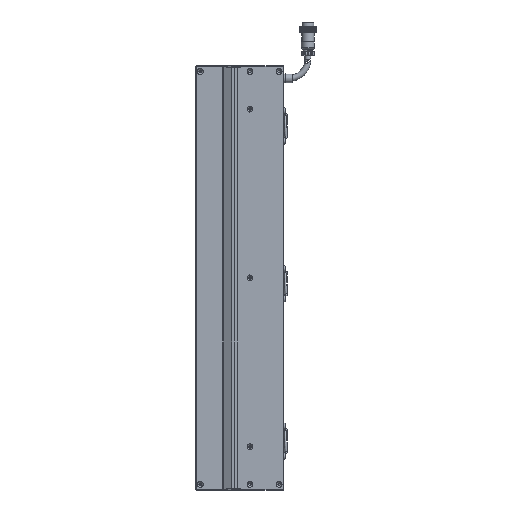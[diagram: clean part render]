
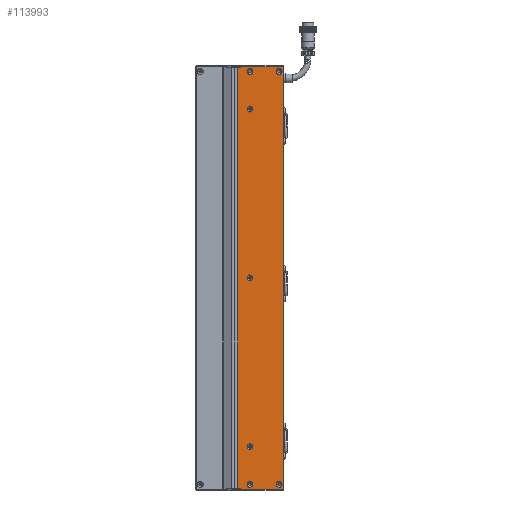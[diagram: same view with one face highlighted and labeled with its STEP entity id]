
A CAD part, left-side view. The second image highlights one B-rep face of the part: STEP entity #113993.
In plain terms, the highlighted planar face has unit normal (-1, 0, 0).
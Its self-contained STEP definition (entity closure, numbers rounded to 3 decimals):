
#1678 = DIRECTION ( 'NONE',  ( -1., 0., 0. ) ) ;
#1937 = DIRECTION ( 'NONE',  ( 0., -1., 0. ) ) ;
#2481 = CARTESIAN_POINT ( 'NONE',  ( -24.998, -26.5, 217. ) ) ;
#2918 = DIRECTION ( 'NONE',  ( 0., 0., -1. ) ) ;
#3551 = CIRCLE ( 'NONE', #79001, 3.15 ) ;
#4057 = ORIENTED_EDGE ( 'NONE', *, *, #41274, .T. ) ;
#4589 = CIRCLE ( 'NONE', #27451, 3.15 ) ;
#5843 = VERTEX_POINT ( 'NONE', #69079 ) ;
#6444 = CARTESIAN_POINT ( 'NONE',  ( -24.998, -26.5, 225.5 ) ) ;
#7222 = PLANE ( 'NONE',  #11568 ) ;
#7411 = VERTEX_POINT ( 'NONE', #6444 ) ;
#9738 = ORIENTED_EDGE ( 'NONE', *, *, #94334, .F. ) ;
#11313 = CARTESIAN_POINT ( 'NONE',  ( -24.998, -36.5, 183.15 ) ) ;
#11568 = AXIS2_PLACEMENT_3D ( 'NONE', #78213, #28026, #99085 ) ;
#12049 = LINE ( 'NONE', #41435, #116949 ) ;
#12840 = CARTESIAN_POINT ( 'NONE',  ( -24.998, -36.5, 0. ) ) ;
#14191 = EDGE_CURVE ( 'NONE', #7411, #53109, #38770, .T. ) ;
#17472 = LINE ( 'NONE', #82135, #71469 ) ;
#18000 = CIRCLE ( 'NONE', #66635, 3.15 ) ;
#19995 = EDGE_LOOP ( 'NONE', ( #27729, #4057, #95891, #44882, #77079, #102467, #67995, #102828 ) ) ;
#20306 = EDGE_CURVE ( 'NONE', #26002, #53109, #17472, .T. ) ;
#22964 = DIRECTION ( 'NONE',  ( -1., 0., 0. ) ) ;
#23528 = EDGE_LOOP ( 'NONE', ( #96556 ) ) ;
#24158 = CARTESIAN_POINT ( 'NONE',  ( -24.998, -23.25, -224. ) ) ;
#25149 = AXIS2_PLACEMENT_3D ( 'NONE', #53984, #22964, #94025 ) ;
#25814 = FACE_OUTER_BOUND ( 'NONE', #19995, .T. ) ;
#26002 = VERTEX_POINT ( 'NONE', #92163 ) ;
#27259 = VERTEX_POINT ( 'NONE', #96201 ) ;
#27451 = AXIS2_PLACEMENT_3D ( 'NONE', #59750, #89950, #90382 ) ;
#27729 = ORIENTED_EDGE ( 'NONE', *, *, #39736, .T. ) ;
#28026 = DIRECTION ( 'NONE',  ( 1., 0., 0. ) ) ;
#28982 = FACE_BOUND ( 'NONE', #99981, .T. ) ;
#32730 = VECTOR ( 'NONE', #86081, 1000. ) ;
#32748 = DIRECTION ( 'NONE',  ( 0., -1., 0. ) ) ;
#38770 = LINE ( 'NONE', #2481, #46705 ) ;
#39736 = EDGE_CURVE ( 'NONE', #54348, #5843, #99677, .T. ) ;
#41228 = CIRCLE ( 'NONE', #49196, 3.15 ) ;
#41274 = EDGE_CURVE ( 'NONE', #5843, #120175, #131452, .T. ) ;
#41435 = CARTESIAN_POINT ( 'NONE',  ( -24.998, -72.5, -225.5 ) ) ;
#41793 = VERTEX_POINT ( 'NONE', #11313 ) ;
#41904 = CIRCLE ( 'NONE', #123654, 3.15 ) ;
#42417 = VECTOR ( 'NONE', #1937, 1000. ) ;
#43332 = EDGE_CURVE ( 'NONE', #54348, #26002, #89768, .T. ) ;
#44465 = CARTESIAN_POINT ( 'NONE',  ( -24.998, -36.5, -176.85 ) ) ;
#44866 = FACE_BOUND ( 'NONE', #92981, .T. ) ;
#44882 = ORIENTED_EDGE ( 'NONE', *, *, #75938, .T. ) ;
#45564 = DIRECTION ( 'NONE',  ( -1., 0., 0. ) ) ;
#45609 = VECTOR ( 'NONE', #106221, 1000. ) ;
#45754 = CARTESIAN_POINT ( 'NONE',  ( -24.998, -72.5, 225.5 ) ) ;
#46438 = FACE_BOUND ( 'NONE', #126923, .T. ) ;
#46705 = VECTOR ( 'NONE', #2918, 1000. ) ;
#49196 = AXIS2_PLACEMENT_3D ( 'NONE', #50446, #131907, #82001 ) ;
#49756 = FACE_BOUND ( 'NONE', #113750, .T. ) ;
#50446 = CARTESIAN_POINT ( 'NONE',  ( -24.998, -36.5, -180. ) ) ;
#52915 = VERTEX_POINT ( 'NONE', #60609 ) ;
#53109 = VERTEX_POINT ( 'NONE', #121900 ) ;
#53984 = CARTESIAN_POINT ( 'NONE',  ( -24.998, -67.5, 220. ) ) ;
#54348 = VERTEX_POINT ( 'NONE', #118490 ) ;
#55081 = AXIS2_PLACEMENT_3D ( 'NONE', #12840, #103004, #83858 ) ;
#56499 = EDGE_CURVE ( 'NONE', #72041, #72041, #18000, .T. ) ;
#56751 = LINE ( 'NONE', #56883, #45609 ) ;
#56883 = CARTESIAN_POINT ( 'NONE',  ( -24.998, -72., 224. ) ) ;
#58202 = ORIENTED_EDGE ( 'NONE', *, *, #66349, .F. ) ;
#59326 = VERTEX_POINT ( 'NONE', #112187 ) ;
#59750 = CARTESIAN_POINT ( 'NONE',  ( -24.998, -36.5, 180. ) ) ;
#60609 = CARTESIAN_POINT ( 'NONE',  ( -24.998, -67.5, -216.85 ) ) ;
#62833 = ORIENTED_EDGE ( 'NONE', *, *, #119256, .F. ) ;
#62979 = CARTESIAN_POINT ( 'NONE',  ( -24.998, -36.5, -220. ) ) ;
#63303 = EDGE_CURVE ( 'NONE', #111360, #7411, #69340, .T. ) ;
#63808 = EDGE_CURVE ( 'NONE', #120175, #27259, #12049, .T. ) ;
#65314 = DIRECTION ( 'NONE',  ( 0., 1., 0. ) ) ;
#66349 = EDGE_CURVE ( 'NONE', #52915, #52915, #41904, .T. ) ;
#66635 = AXIS2_PLACEMENT_3D ( 'NONE', #62979, #1678, #125664 ) ;
#67995 = ORIENTED_EDGE ( 'NONE', *, *, #20306, .F. ) ;
#68278 = DIRECTION ( 'NONE',  ( 0., 0., 1. ) ) ;
#69079 = CARTESIAN_POINT ( 'NONE',  ( -24.998, -26.5, -224. ) ) ;
#69340 = LINE ( 'NONE', #45754, #83626 ) ;
#71469 = VECTOR ( 'NONE', #32748, 1000. ) ;
#71689 = CARTESIAN_POINT ( 'NONE',  ( -24.998, -36.5, 3.15 ) ) ;
#72041 = VERTEX_POINT ( 'NONE', #109978 ) ;
#75938 = EDGE_CURVE ( 'NONE', #27259, #111360, #56751, .T. ) ;
#77079 = ORIENTED_EDGE ( 'NONE', *, *, #63303, .T. ) ;
#78213 = CARTESIAN_POINT ( 'NONE',  ( -24.998, -72.5, 224. ) ) ;
#79001 = AXIS2_PLACEMENT_3D ( 'NONE', #82323, #122446, #122006 ) ;
#82001 = DIRECTION ( 'NONE',  ( 0., 0., 1. ) ) ;
#82135 = CARTESIAN_POINT ( 'NONE',  ( -24.998, -72.5, 224. ) ) ;
#82323 = CARTESIAN_POINT ( 'NONE',  ( -24.998, -36.5, 220. ) ) ;
#83626 = VECTOR ( 'NONE', #65314, 1000. ) ;
#83858 = DIRECTION ( 'NONE',  ( 0., 0., 1. ) ) ;
#86081 = DIRECTION ( 'NONE',  ( 0., 0., -1. ) ) ;
#89532 = EDGE_CURVE ( 'NONE', #59326, #59326, #3551, .T. ) ;
#89768 = LINE ( 'NONE', #24158, #91432 ) ;
#89950 = DIRECTION ( 'NONE',  ( -1., 0., 0. ) ) ;
#90382 = DIRECTION ( 'NONE',  ( 0., 0., 1. ) ) ;
#91432 = VECTOR ( 'NONE', #96123, 1000. ) ;
#92163 = CARTESIAN_POINT ( 'NONE',  ( -24.998, -23.25, 224. ) ) ;
#92605 = DIRECTION ( 'NONE',  ( 0., -1., 0. ) ) ;
#92981 = EDGE_LOOP ( 'NONE', ( #58202 ) ) ;
#94025 = DIRECTION ( 'NONE',  ( 0., 0., 1. ) ) ;
#94334 = EDGE_CURVE ( 'NONE', #41793, #41793, #4589, .T. ) ;
#95889 = CARTESIAN_POINT ( 'NONE',  ( -24.998, -26.5, -225.5 ) ) ;
#95891 = ORIENTED_EDGE ( 'NONE', *, *, #63808, .T. ) ;
#96123 = DIRECTION ( 'NONE',  ( 0., 0., 1. ) ) ;
#96201 = CARTESIAN_POINT ( 'NONE',  ( -24.998, -72., -225.5 ) ) ;
#96556 = ORIENTED_EDGE ( 'NONE', *, *, #127970, .F. ) ;
#99085 = DIRECTION ( 'NONE',  ( 0., 0., -1. ) ) ;
#99677 = LINE ( 'NONE', #115217, #42417 ) ;
#99981 = EDGE_LOOP ( 'NONE', ( #62833 ) ) ;
#100501 = FACE_BOUND ( 'NONE', #23528, .T. ) ;
#102096 = CIRCLE ( 'NONE', #55081, 3.15 ) ;
#102467 = ORIENTED_EDGE ( 'NONE', *, *, #14191, .T. ) ;
#102828 = ORIENTED_EDGE ( 'NONE', *, *, #43332, .F. ) ;
#103004 = DIRECTION ( 'NONE',  ( -1., 0., 0. ) ) ;
#103869 = FACE_BOUND ( 'NONE', #106565, .T. ) ;
#105319 = VERTEX_POINT ( 'NONE', #71689 ) ;
#105829 = CARTESIAN_POINT ( 'NONE',  ( -24.998, -67.5, 223.15 ) ) ;
#106221 = DIRECTION ( 'NONE',  ( 0., 0., 1. ) ) ;
#106565 = EDGE_LOOP ( 'NONE', ( #114401 ) ) ;
#109978 = CARTESIAN_POINT ( 'NONE',  ( -24.998, -36.5, -216.85 ) ) ;
#111360 = VERTEX_POINT ( 'NONE', #113604 ) ;
#112187 = CARTESIAN_POINT ( 'NONE',  ( -24.998, -36.5, 223.15 ) ) ;
#113290 = VERTEX_POINT ( 'NONE', #44465 ) ;
#113604 = CARTESIAN_POINT ( 'NONE',  ( -24.998, -72., 225.5 ) ) ;
#113750 = EDGE_LOOP ( 'NONE', ( #130943 ) ) ;
#113993 = ADVANCED_FACE ( 'NONE', ( #44866, #103869, #100501, #121277, #28982, #49756, #46438, #25814 ), #7222, .F. ) ;
#114401 = ORIENTED_EDGE ( 'NONE', *, *, #56499, .F. ) ;
#115217 = CARTESIAN_POINT ( 'NONE',  ( -24.998, -72.5, -224. ) ) ;
#116256 = EDGE_CURVE ( 'NONE', #105319, #105319, #102096, .T. ) ;
#116949 = VECTOR ( 'NONE', #92605, 1000. ) ;
#118490 = CARTESIAN_POINT ( 'NONE',  ( -24.998, -23.25, -224. ) ) ;
#119256 = EDGE_CURVE ( 'NONE', #113290, #113290, #41228, .T. ) ;
#120175 = VERTEX_POINT ( 'NONE', #95889 ) ;
#121277 = FACE_BOUND ( 'NONE', #127577, .T. ) ;
#121900 = CARTESIAN_POINT ( 'NONE',  ( -24.998, -26.5, 224. ) ) ;
#122006 = DIRECTION ( 'NONE',  ( 0., 0., 1. ) ) ;
#122446 = DIRECTION ( 'NONE',  ( -1., 0., 0. ) ) ;
#123092 = ORIENTED_EDGE ( 'NONE', *, *, #89532, .F. ) ;
#123654 = AXIS2_PLACEMENT_3D ( 'NONE', #127016, #45564, #68278 ) ;
#125664 = DIRECTION ( 'NONE',  ( 0., 0., 1. ) ) ;
#126203 = CARTESIAN_POINT ( 'NONE',  ( -24.998, -26.5, -217. ) ) ;
#126923 = EDGE_LOOP ( 'NONE', ( #9738 ) ) ;
#127016 = CARTESIAN_POINT ( 'NONE',  ( -24.998, -67.5, -220. ) ) ;
#127577 = EDGE_LOOP ( 'NONE', ( #123092 ) ) ;
#127970 = EDGE_CURVE ( 'NONE', #129160, #129160, #128470, .T. ) ;
#128470 = CIRCLE ( 'NONE', #25149, 3.15 ) ;
#129160 = VERTEX_POINT ( 'NONE', #105829 ) ;
#130943 = ORIENTED_EDGE ( 'NONE', *, *, #116256, .F. ) ;
#131452 = LINE ( 'NONE', #126203, #32730 ) ;
#131907 = DIRECTION ( 'NONE',  ( -1., 0., 0. ) ) ;
